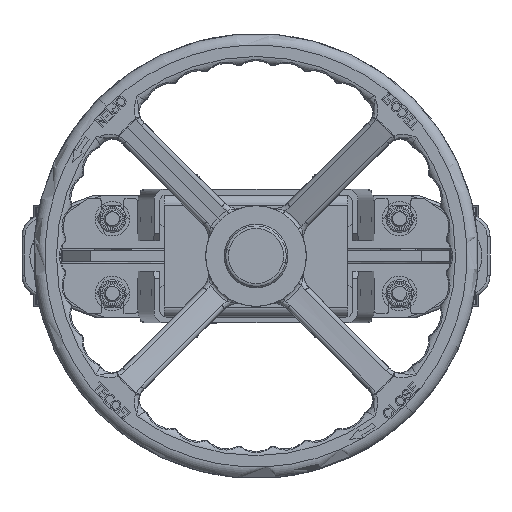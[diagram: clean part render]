
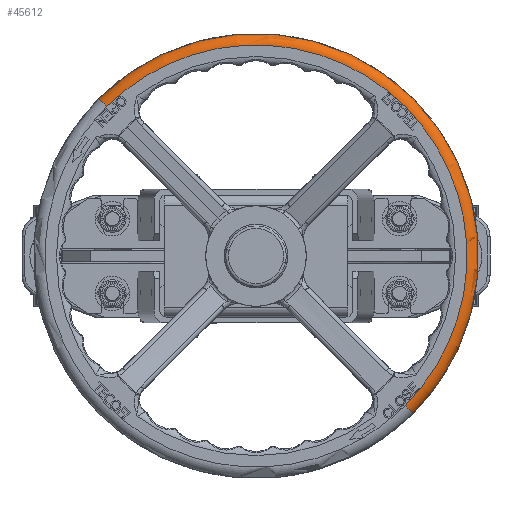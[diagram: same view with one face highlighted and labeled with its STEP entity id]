
A CAD part, front view. The second image highlights one B-rep face of the part: STEP entity #45612.
In plain terms, the highlighted toroidal (fillet/blend) face has major radius 147 mm and minor radius 8 mm.
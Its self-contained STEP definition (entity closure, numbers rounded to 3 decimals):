
#7063 = DIRECTION ( 'NONE',  ( 0.707, 0., 0.707 ) ) ;
#7465 = CIRCLE ( 'NONE', #64955, 155. ) ;
#11681 = DIRECTION ( 'NONE',  ( 0.707, 0., -0.707 ) ) ;
#15997 = CARTESIAN_POINT ( 'NONE',  ( 109.567, -675.5, -109.636 ) ) ;
#18171 = CIRCLE ( 'NONE', #71062, 8. ) ;
#22971 = CARTESIAN_POINT ( 'NONE',  ( 0., -675.5, 0. ) ) ;
#24822 = CIRCLE ( 'NONE', #79248, 8. ) ;
#25468 = EDGE_CURVE ( 'NONE', #93497, #25469, #77924, .T. ) ;
#25469 = VERTEX_POINT ( 'NONE', #87167 ) ;
#26836 = DIRECTION ( 'NONE',  ( 0., -1., 0. ) ) ;
#32895 = CARTESIAN_POINT ( 'NONE',  ( -109.567, -675.5, 109.636 ) ) ;
#34453 = EDGE_LOOP ( 'NONE', ( #95792, #82574, #38813, #94211 ) ) ;
#35943 = AXIS2_PLACEMENT_3D ( 'NONE', #88124, #26836, #64280 ) ;
#38813 = ORIENTED_EDGE ( 'NONE', *, *, #40650, .T. ) ;
#38906 = VERTEX_POINT ( 'NONE', #15997 ) ;
#40650 = EDGE_CURVE ( 'NONE', #93497, #38906, #24822, .T. ) ;
#44996 = DIRECTION ( 'NONE',  ( 0.707, 0., -0.707 ) ) ;
#45543 = DIRECTION ( 'NONE',  ( -0.707, 0., -0.707 ) ) ;
#45612 = ADVANCED_FACE ( 'NONE', ( #89629 ), #50165, .T. ) ;
#46012 = DIRECTION ( 'NONE',  ( -0.707, 0., 0.707 ) ) ;
#50165 = TOROIDAL_SURFACE ( 'NONE', #56410, 147., 8. ) ;
#51350 = CARTESIAN_POINT ( 'NONE',  ( 103.912, -675.5, -103.977 ) ) ;
#56410 = AXIS2_PLACEMENT_3D ( 'NONE', #22971, #82347, #68700 ) ;
#64280 = DIRECTION ( 'NONE',  ( 0.707, 0., -0.707 ) ) ;
#64955 = AXIS2_PLACEMENT_3D ( 'NONE', #86657, #78406, #11681 ) ;
#66981 = CARTESIAN_POINT ( 'NONE',  ( -103.912, -675.5, 103.977 ) ) ;
#68700 = DIRECTION ( 'NONE',  ( 0.707, 0., -0.707 ) ) ;
#71062 = AXIS2_PLACEMENT_3D ( 'NONE', #66981, #45543, #46012 ) ;
#77924 = CIRCLE ( 'NONE', #35943, 147. ) ;
#78406 = DIRECTION ( 'NONE',  ( 0., 1., 0. ) ) ;
#79248 = AXIS2_PLACEMENT_3D ( 'NONE', #51350, #7063, #44996 ) ;
#80644 = CARTESIAN_POINT ( 'NONE',  ( 103.912, -683.5, -103.977 ) ) ;
#81610 = VERTEX_POINT ( 'NONE', #32895 ) ;
#82347 = DIRECTION ( 'NONE',  ( 0., 1., 0. ) ) ;
#82574 = ORIENTED_EDGE ( 'NONE', *, *, #25468, .F. ) ;
#86657 = CARTESIAN_POINT ( 'NONE',  ( 0., -675.5, 0. ) ) ;
#87167 = CARTESIAN_POINT ( 'NONE',  ( -103.912, -683.5, 103.977 ) ) ;
#88124 = CARTESIAN_POINT ( 'NONE',  ( 0., -683.5, 0. ) ) ;
#89629 = FACE_OUTER_BOUND ( 'NONE', #34453, .T. ) ;
#93497 = VERTEX_POINT ( 'NONE', #80644 ) ;
#94211 = ORIENTED_EDGE ( 'NONE', *, *, #95632, .F. ) ;
#94308 = EDGE_CURVE ( 'NONE', #25469, #81610, #18171, .T. ) ;
#95632 = EDGE_CURVE ( 'NONE', #81610, #38906, #7465, .T. ) ;
#95792 = ORIENTED_EDGE ( 'NONE', *, *, #94308, .F. ) ;
